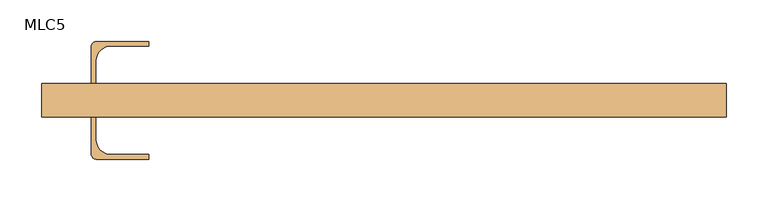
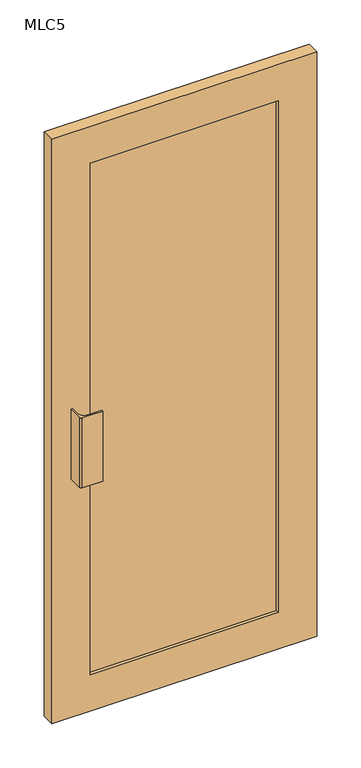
"""IFC4 building model written with IfcOpenShell, lengths in millimetres: door geometry, 门嵌板_单开门2 : MLC5."""

import ifcopenshell
import ifcopenshell.guid

model = None  # the IFC model being written
_history = None  # IfcOwnerHistory: only IFC2X3 demands one
_inside = {}  # id of a spatial element -> (the spatial element, [elements in it])
_under = {}  # id of a project, library or spatial element -> (it, [spatial elements below it])
_declared = {}  # id of a project -> (the project, [libraries it declares])
_typed = {}  # id of a type object -> (the type object, [elements of that type])
_made_of = {}  # id of a material, layer set ... -> (it, [elements and type objects made of it])


def new_model(schema):
    """Start an empty IFC model of exactly this schema.

    Asked for "IFC4X3", IfcOpenShell would pick the latest addendum, in which some entities
    have other attributes; the version numbers below select the first issue.
    IFC2X3 requires an IfcOwnerHistory on every rooted entity: one is made here for all.
    """
    global model, _history
    if schema == "IFC4X3":
        model = ifcopenshell.file(schema_version=(4, 3, 0, 0))
    else:
        model = ifcopenshell.file(schema=schema)
    _inside.clear()
    _under.clear()
    _declared.clear()
    _typed.clear()
    _made_of.clear()
    _history = None
    if model.schema == "IFC2X3":
        org = make("IfcOrganization", Name="unknown")
        user = make(
            "IfcPersonAndOrganization",
            ThePerson=make("IfcPerson", FamilyName="unknown"),
            TheOrganization=org,
        )
        app = make(
            "IfcApplication",
            ApplicationDeveloper=org,
            Version="unknown",
            ApplicationFullName="unknown",
            ApplicationIdentifier="unknown",
        )
        _history = make(
            "IfcOwnerHistory",
            OwningUser=user,
            OwningApplication=app,
            ChangeAction="ADDED",
            CreationDate=0,
        )
    return model


def make(cls, **values):
    """One entity of the class cls with the attributes given. An attribute that is None is left unset."""
    return model.create_entity(
        cls, **{name: value for name, value in values.items() if value is not None}
    )


def rooted(cls, **values):
    """An entity with a GlobalId (a new one), such as an element, a storey or a relation."""
    return make(cls, GlobalId=ifcopenshell.guid.new(), OwnerHistory=_history, **values)


def si_unit(unit_type, name, prefix=None):
    """IfcSIUnit, for example si_unit("LENGTHUNIT", "METRE", prefix="MILLI")."""
    return make("IfcSIUnit", UnitType=unit_type, Prefix=prefix, Name=name)


def assignment(units):
    """IfcUnitAssignment: the units of a project."""
    return None if units is None else make("IfcUnitAssignment", Units=units)


def point(xyz):
    """IfcCartesianPoint."""
    return None if xyz is None else make("IfcCartesianPoint", Coordinates=xyz)


def direction(xyz):
    """IfcDirection."""
    return None if xyz is None else make("IfcDirection", DirectionRatios=xyz)


def frame(location, z_axis=None, x_axis=None):
    """IfcAxis2Placement3D, a coordinate frame: its origin and axes. An axis left out is left unset."""
    return make(
        "IfcAxis2Placement3D",
        Location=point(location),
        Axis=direction(z_axis),
        RefDirection=direction(x_axis),
    )


def frame_2d(location, x_axis=None):
    """IfcAxis2Placement2D, a coordinate frame in the plane: its origin and x axis."""
    return make(
        "IfcAxis2Placement2D", Location=point(location), RefDirection=direction(x_axis)
    )


def origin():
    """The frame at (0, 0, 0) with its axes left unset."""
    return frame((0.0, 0.0, 0.0))


def place(relative_to, where):
    """IfcLocalPlacement: puts the frame where relative to a parent placement (None: the world)."""
    return make(
        "IfcLocalPlacement", PlacementRelTo=relative_to, RelativePlacement=where
    )


def context(
    kind, dimensions, precision=None, world=None, true_north=None, identifier=None
):
    """IfcGeometricRepresentationContext, for example the 3D "Model" context."""
    return make(
        "IfcGeometricRepresentationContext",
        ContextIdentifier=identifier,
        ContextType=kind,
        CoordinateSpaceDimension=dimensions,
        Precision=precision,
        WorldCoordinateSystem=world,
        TrueNorth=true_north,
    )


def project(units=None, contexts=None):
    """IfcProject with its units and contexts."""
    return rooted(
        "IfcProject",
        Name="project",
        RepresentationContexts=contexts,
        UnitsInContext=assignment(units),
    )


def spatial(cls, under=None, at=None, **own):
    """A site, building, storey or space (cls), placed at a placement, below another one or the project."""
    s = rooted(cls, ObjectPlacement=at, **own)
    if under is not None:
        _under.setdefault(under.id(), (under, []))[1].append(s)
    return s


def polyline(points):
    """IfcPolyline through the points."""
    return make("IfcPolyline", Points=[point(p) for p in points])


def circle_curve(where, radius):
    """IfcCircle in the frame where."""
    return make("IfcCircle", Position=where, Radius=radius)


def trimmed(basis, trim1, trim2, sense, master):
    """IfcTrimmedCurve: the piece of a basis curve between two trims."""
    return make(
        "IfcTrimmedCurve",
        BasisCurve=basis,
        Trim1=trim1,
        Trim2=trim2,
        SenseAgreement=sense,
        MasterRepresentation=master,
    )


def segment(curve, same_sense, transition):
    """IfcCompositeCurveSegment."""
    return make(
        "IfcCompositeCurveSegment",
        Transition=transition,
        SameSense=same_sense,
        ParentCurve=curve,
    )


def composite_curve(segments, self_intersect=None):
    """IfcCompositeCurve: segments joined end to end."""
    return make("IfcCompositeCurve", Segments=segments, SelfIntersect=self_intersect)


def outline(outer, holes=None, kind="AREA"):
    """IfcArbitraryClosedProfileDef: a profile drawn as a closed curve; with holes, ...WithVoids."""
    if holes is None:
        return make("IfcArbitraryClosedProfileDef", ProfileType=kind, OuterCurve=outer)
    return make(
        "IfcArbitraryProfileDefWithVoids",
        ProfileType=kind,
        OuterCurve=outer,
        InnerCurves=holes,
    )


def extrude(swept, where, along, depth):
    """IfcExtrudedAreaSolid: the profile swept, set in the frame where, extruded along a direction by depth."""
    return make(
        "IfcExtrudedAreaSolid",
        SweptArea=swept,
        Position=where,
        ExtrudedDirection=direction(along),
        Depth=depth,
    )


def shape(context_of_items, identifier, shape_type, items):
    """IfcShapeRepresentation: the items that make up one representation, for example the "Body"."""
    return make(
        "IfcShapeRepresentation",
        ContextOfItems=context_of_items,
        RepresentationIdentifier=identifier,
        RepresentationType=shape_type,
        Items=items,
    )


def source(mapping_origin, context_of_items, identifier, shape_type, items):
    """IfcRepresentationMap: a shape defined once, which mapped items show again and again."""
    return make(
        "IfcRepresentationMap",
        MappingOrigin=mapping_origin,
        MappedRepresentation=shape(context_of_items, identifier, shape_type, items),
    )


def transform(
    local_origin,
    x_axis=None,
    y_axis=None,
    z_axis=None,
    scale=None,
    scale2=None,
    scale3=None,
    uniform=True,
):
    """IfcCartesianTransformationOperator3D, or its non-uniform kind. x_axis, y_axis, z_axis: its Axis1, 2, 3."""
    if uniform:
        return make(
            "IfcCartesianTransformationOperator3D",
            Axis1=direction(x_axis),
            Axis2=direction(y_axis),
            LocalOrigin=point(local_origin),
            Scale=scale,
            Axis3=direction(z_axis),
        )
    return make(
        "IfcCartesianTransformationOperator3DnonUniform",
        Axis1=direction(x_axis),
        Axis2=direction(y_axis),
        LocalOrigin=point(local_origin),
        Scale=scale,
        Axis3=direction(z_axis),
        Scale2=scale2,
        Scale3=scale3,
    )


def mapped(mapping_source, mapping_target):
    """IfcMappedItem: shows the shape of a source again, moved by a transform."""
    return make(
        "IfcMappedItem", MappingSource=mapping_source, MappingTarget=mapping_target
    )


def made_of(thing, what):
    """Note that an element or type object is made of a material, layer set ...; save() writes the relation."""
    if what is not None:
        _made_of.setdefault(what.id(), (what, []))[1].append(thing)
    return thing


def element(
    cls,
    number,
    at=None,
    inside=None,
    cuts=None,
    type_object=None,
    material=None,
    context=None,
    identifier="Body",
    shape_type=None,
    held_by="IfcProductDefinitionShape",
    body=None,
    shapes=None,
    **own,
):
    """One element of the class cls, such as IfcWall. Its Tag is "e" and its number.

    at: its placement. inside: the storey or other place that contains it. cuts: it is an
    opening in that element (IfcRelVoidsElement). A single representation is given by context,
    identifier, shape_type and body (its items); several are given by shapes. held_by: the class
    of the entity that holds the representations. save() writes the other relations.
    """
    e = rooted(cls, Tag="e%d" % number, ObjectPlacement=at, **own)
    if body is not None:
        shapes = [shape(context, identifier, shape_type, body)]
    if shapes is not None:
        e.Representation = make(held_by, Representations=shapes)
    if inside is not None:
        _inside.setdefault(inside.id(), (inside, []))[1].append(e)
    if cuts is not None:
        rooted(
            "IfcRelVoidsElement", RelatingBuildingElement=cuts, RelatedOpeningElement=e
        )
    if type_object is not None:
        _typed.setdefault(type_object.id(), (type_object, []))[1].append(e)
    return made_of(e, material)


def aggregate(whole, parts):
    """IfcRelAggregates: a whole, such as a stair, and the parts it consists of."""
    return rooted("IfcRelAggregates", RelatingObject=whole, RelatedObjects=parts)


def save(model, path):
    """Write the relations noted so far, then the file.

    IfcRelAggregates (storeys below a building ...), IfcRelContainedInSpatialStructure (elements
    in a storey), IfcRelDefinesByType, IfcRelAssociatesMaterial and IfcRelDeclares: one each for
    every whole, place, type object, material and project.
    """
    for whole, parts in _under.values():
        aggregate(whole, parts)
    for where, things in _inside.values():
        rooted(
            "IfcRelContainedInSpatialStructure",
            RelatedElements=things,
            RelatingStructure=where,
        )
    for kind, things in _typed.values():
        rooted("IfcRelDefinesByType", RelatedObjects=things, RelatingType=kind)
    for what, things in _made_of.values():
        rooted("IfcRelAssociatesMaterial", RelatedObjects=things, RelatingMaterial=what)
    for by, libraries in _declared.values():
        rooted("IfcRelDeclares", RelatingContext=by, RelatedDefinitions=libraries)
    model.write(path)


def mlc5_12f04068(model_context):
    return source(origin(), model_context, "Body", "SweptSolid", [
        extrude(outline(composite_curve([segment(polyline([(-352.5, -20.0), (-347.0, -20.0), (-347.0, -47.5)]), True, "CONTINUOUS"), segment(trimmed(circle_curve(frame_2d((-329.0, -47.5)), 18.0), [point((-347.0, -47.5))], [point((-329.0, -65.5))], True, "CARTESIAN"), True, "CONTINUOUS"), segment(polyline([(-329.0, -65.5), (-283.5, -65.5), (-283.5, -71.0), (-346.5, -71.0)]), True, "CONTINUOUS"), segment(trimmed(circle_curve(frame_2d((-346.5, -65.0)), 6.0), [point((-346.5, -71.0))], [point((-352.5, -65.0))], False, "CARTESIAN"), True, "CONTINUOUS"), segment(polyline([(-352.5, -65.0), (-352.5, -20.0)]), True, "CONTINUOUS")], self_intersect=False)), frame((0.0, 0.0, 785.0), z_axis=(0.0, 0.0, 1.0), x_axis=(1.0, 0.0, 0.0)), (0.0, 0.0, 1.0), 230.0),
        extrude(outline(composite_curve([segment(polyline([(-352.5, 20.0), (-352.5, 65.0)]), True, "CONTINUOUS"), segment(trimmed(circle_curve(frame_2d((-346.5, 65.0)), 6.0), [point((-352.5, 65.0))], [point((-346.5, 71.0))], False, "CARTESIAN"), True, "CONTINUOUS"), segment(polyline([(-346.5, 71.0), (-283.5, 71.0), (-283.5, 65.5), (-329.0, 65.5)]), True, "CONTINUOUS"), segment(trimmed(circle_curve(frame_2d((-329.0, 47.5)), 18.0), [point((-329.0, 65.5))], [point((-347.0, 47.5))], True, "CARTESIAN"), True, "CONTINUOUS"), segment(polyline([(-347.0, 47.5), (-347.0, 20.0), (-352.5, 20.0)]), True, "CONTINUOUS")], self_intersect=False)), frame((0.0, 0.0, 785.0), z_axis=(0.0, 0.0, 1.0), x_axis=(1.0, 0.0, 0.0)), (0.0, 0.0, 1.0), 230.0),
        extrude(outline(polyline([(292.5, 10.0), (292.5, -10.0), (-292.5, -10.0), (-292.5, 10.0), (292.5, 10.0)])), frame((0.0, 0.0, 120.0), z_axis=(0.0, 0.0, 1.0), x_axis=(1.0, 0.0, 0.0)), (0.0, 0.0, 1.0), 1685.0),
        extrude(outline(polyline([(1925.0, -412.5), (0.0, -412.5), (0.0, 412.5), (1925.0, 412.5), (1925.0, -412.5)]), holes=[polyline([(1805.0, -292.5), (1805.0, 292.5), (120.0, 292.5), (120.0, -292.5), (1805.0, -292.5)])]), frame((0.0, -20.0, 0.0), z_axis=(0.0, 1.0, 0.0), x_axis=(0.0, 0.0, 1.0)), (0.0, 0.0, 1.0), 40.0),
    ])


if __name__ == "__main__":
    model = new_model("IFC4")
    model_context = context("Model", 3, world=origin())
    ifc_project = project(units=[si_unit("LENGTHUNIT", "METRE", prefix="MILLI")], contexts=[model_context])
    site = spatial("IfcSite", under=ifc_project)
    building = spatial("IfcBuilding", under=site)
    placement = place(None, origin())
    mlc5_shape = mlc5_12f04068(model_context)
    element("IfcDoor", 1, ObjectType="门嵌板_单开门2 : MLC5", at=placement, inside=building, context=model_context, shape_type="MappedRepresentation", body=[
        mapped(mlc5_shape, transform((0.0, 0.0, 0.0), x_axis=(1.0, 0.0, 0.0), y_axis=(0.0, 1.0, 0.0), z_axis=(0.0, 0.0, 1.0))),
    ])
    save(model, "model.ifc")
